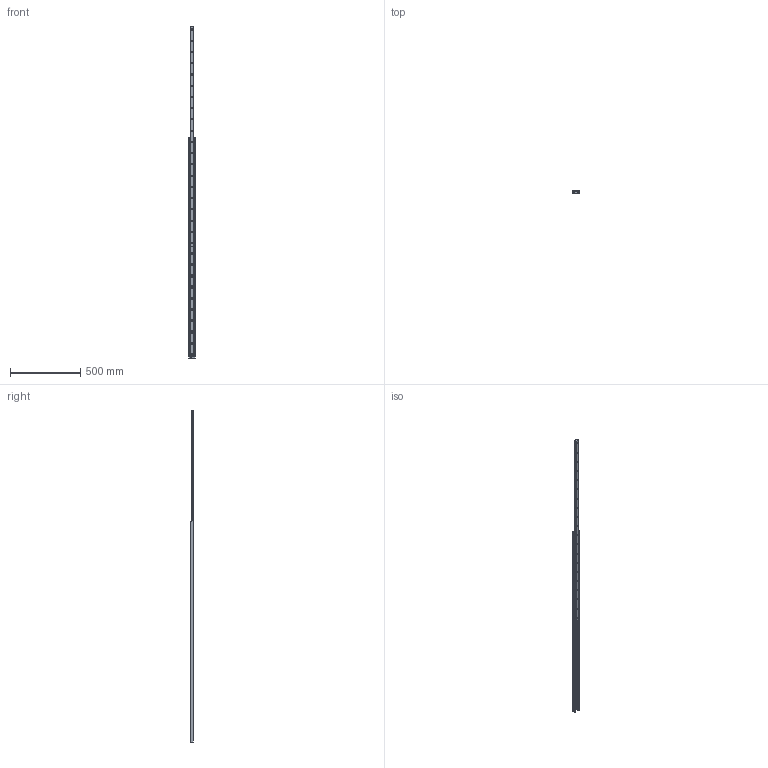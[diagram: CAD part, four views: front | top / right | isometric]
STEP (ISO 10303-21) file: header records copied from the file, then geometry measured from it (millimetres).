
FILE_DESCRIPTION(('STEP AP214'),'1');
FILE_NAME('rail_asn43-1570_01.stp','2017-06-06T10:19:40',('TraceParts'),('TraceParts S.A.'),'Spatial InterOp 3D',' ',' ');
FILE_SCHEMA(('automotive_design'));
Length unit declared in the file: millimetre
Products named in the file (2): rail_asn43-1570_01_1; rail_asn43-1570_01_2
Bounding box: 43 x 22.01 x 2363 mm (x, y, z)
Volume: 955571 mm3; surface area: 369408.1 mm2
Topology: 2 solids, 2 shells, 277 faces, 684 edges, 416 vertices
Faces by surface type: cone 120, cylinder 111, plane 46
Entity records: 8390 total; most frequent: DIRECTION 1584, CARTESIAN_POINT 1379, ORIENTED_EDGE 1368, EDGE_CURVE 684, AXIS2_PLACEMENT_3D 621, VERTEX_POINT 416, EDGE_LOOP 362, LINE 342
